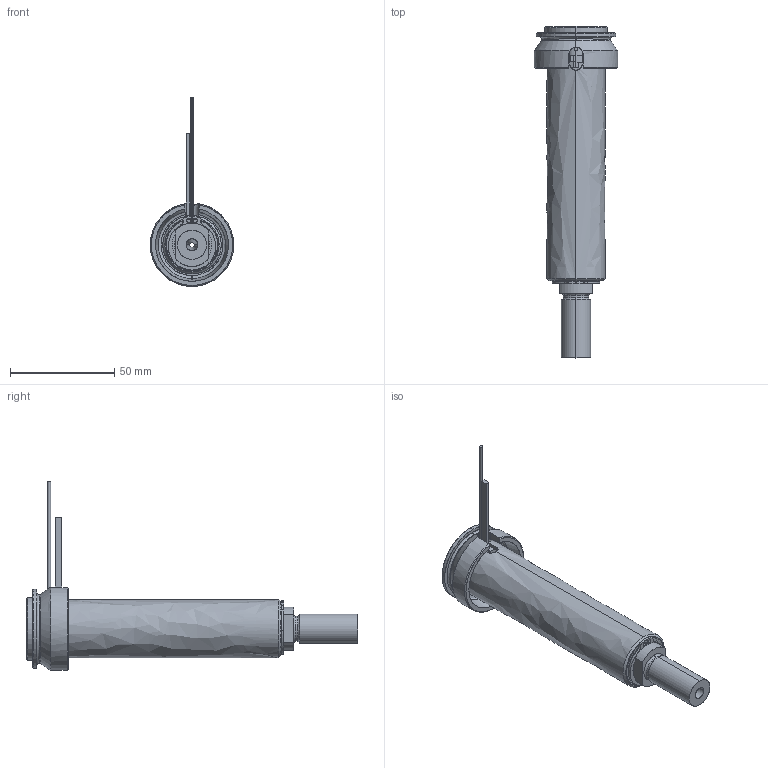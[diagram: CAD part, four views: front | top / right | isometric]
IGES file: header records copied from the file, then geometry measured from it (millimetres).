
Start section: SolidWorks IGES file using analytic representation for surfaces
Global section: file name: C:\Documents and Settings\ws-20\Desktop\TEMPORANEA\UGBE4003-M-A-P-3 [Ød-2.5 P-25 ØC-10].IGS; native system: SolidWorks 2012; preprocessor: SolidWorks 2012; author: ws-20; date: 120306.140832; units: millimetre
Bounding box: 40 x 159.25 x 90.65 mm (x, y, z)
Surface area: 42692.5 mm2 (no closed solid volume)
Topology: 0 solids, 0 shells, 106 faces, 1785 edges, 1785 vertices
Faces by surface type: revolution 60, bspline 46
